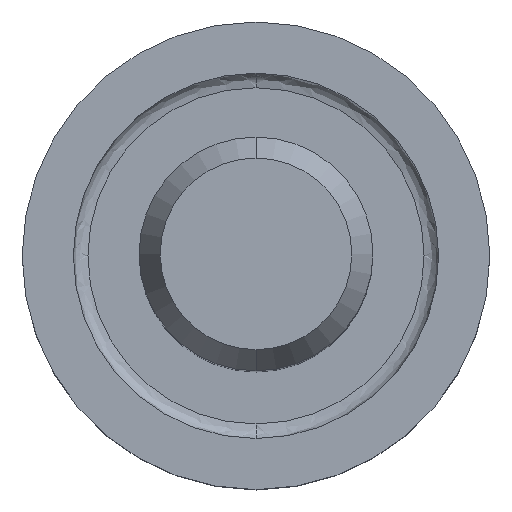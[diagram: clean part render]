
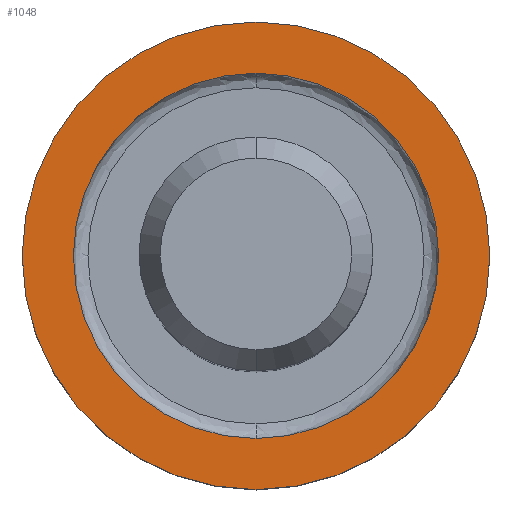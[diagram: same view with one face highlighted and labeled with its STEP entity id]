
A CAD part, top view. The second image highlights one B-rep face of the part: STEP entity #1048.
In plain terms, the highlighted free-form (B-spline) face has degree [1, 1] with [2, 2] control points.
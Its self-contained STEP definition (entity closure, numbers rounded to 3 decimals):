
#145=CARTESIAN_POINT('',(0.,0.,-76.));
#146=DIRECTION('',(0.,0.,-1.));
#147=DIRECTION('',(0.,-1.,0.));
#148=AXIS2_PLACEMENT_3D('',#145,#146,#147);
#150=CARTESIAN_POINT('',(0.,0.,-76.));
#151=DIRECTION('',(0.,0.,1.));
#152=DIRECTION('',(0.,-1.,0.));
#153=AXIS2_PLACEMENT_3D('',#150,#151,#152);
#155=CARTESIAN_POINT('',(0.,0.,-76.));
#156=DIRECTION('',(0.,0.,1.));
#157=DIRECTION('',(0.,1.,0.));
#158=AXIS2_PLACEMENT_3D('',#155,#156,#157);
#160=CARTESIAN_POINT('',(0.,0.,-76.));
#161=DIRECTION('',(0.,0.,1.));
#162=DIRECTION('',(0.,-1.,0.));
#163=AXIS2_PLACEMENT_3D('',#160,#161,#162);
#260=CARTESIAN_POINT('',(0.,16.,-76.));
#262=VERTEX_POINT('',#260);
#264=CARTESIAN_POINT('',(0.,-16.,-76.));
#266=VERTEX_POINT('',#264);
#288=CARTESIAN_POINT('',(0.,12.5,-76.));
#289=CARTESIAN_POINT('',(0.,-12.5,-76.));
#290=VERTEX_POINT('',#288);
#291=VERTEX_POINT('',#289);
#1032=CARTESIAN_POINT('',(16.64,16.64,-76.));
#1033=CARTESIAN_POINT('',(-16.64,16.64,-76.));
#1034=CARTESIAN_POINT('',(16.64,-16.64,-76.));
#1035=CARTESIAN_POINT('',(-16.64,-16.64,-76.));
#1036=B_SPLINE_SURFACE_WITH_KNOTS('',1,1,((#1032,#1033),(#1034,#1035)),
.UNSPECIFIED.,.F.,.F.,.F.,(2,2),(2,2),(-16.64,16.64),(-16.64,16.64),
.UNSPECIFIED.);
#1038=ORIENTED_EDGE('',*,*,#1037,.T.);
#1040=ORIENTED_EDGE('',*,*,#1039,.F.);
#1041=EDGE_LOOP('',(#1038,#1040));
#1042=FACE_OUTER_BOUND('',#1041,.F.);
#1043=ORIENTED_EDGE('',*,*,#1015,.T.);
#1045=ORIENTED_EDGE('',*,*,#1044,.T.);
#1046=EDGE_LOOP('',(#1043,#1045));
#1047=FACE_BOUND('',#1046,.F.);
#149=CIRCLE('',#148,16.);
#154=CIRCLE('',#153,16.);
#159=CIRCLE('',#158,12.5);
#164=CIRCLE('',#163,12.5);
#1015=EDGE_CURVE('',#290,#291,#159,.T.);
#1037=EDGE_CURVE('',#266,#262,#149,.T.);
#1039=EDGE_CURVE('',#266,#262,#154,.T.);
#1044=EDGE_CURVE('',#291,#290,#164,.T.);
#1048=ADVANCED_FACE('',(#1042,#1047),#1036,.F.);
